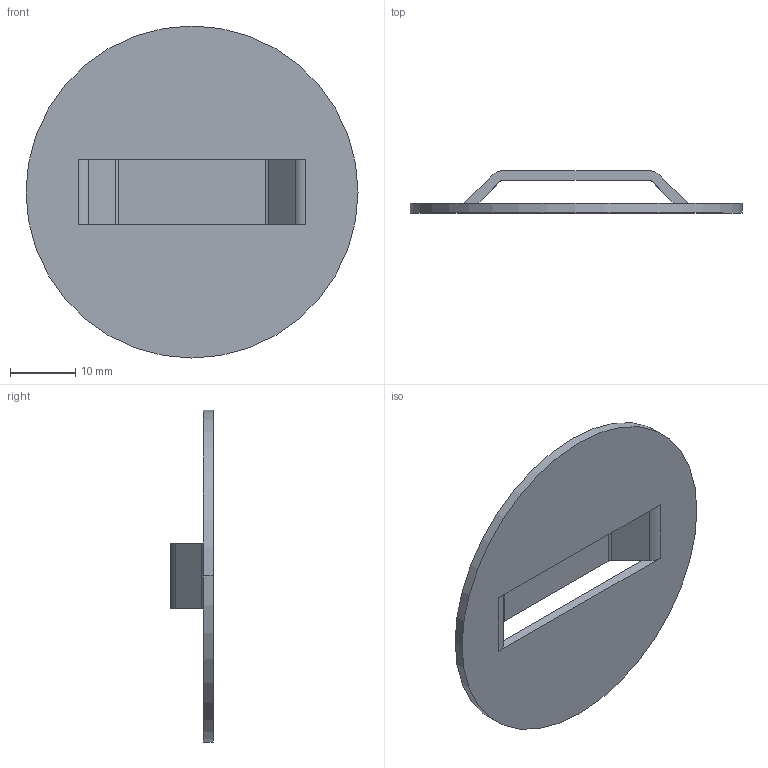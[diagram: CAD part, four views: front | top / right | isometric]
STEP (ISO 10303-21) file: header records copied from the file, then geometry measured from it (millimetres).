
FILE_DESCRIPTION (( 'STEP AP203' ), '1' );
FILE_NAME ('1242633-10 FU BRIDGELANCE .394W X 1.348L X .197H X .059 THK.STEP', '2024-11-18T17:18:44', ( '' ), ( '' ), 'SwSTEP 2.0', 'SolidWorks 2024', '' );
FILE_SCHEMA (( 'CONFIG_CONTROL_DESIGN' ));
Length unit declared in the file: inch
Products named in the file (1): 1242633-10 FU BRIDGELANCE .394W X 1.348L X .197H X .059 THK
Bounding box: 50.8 x 6.5 x 50.8 mm (x, y, z)
Volume: 3095.7 mm3; surface area: 4571.9 mm2
Topology: 1 solids, 1 shells, 22 faces, 62 edges, 40 vertices
Faces by surface type: plane 12, cylinder 10
Entity records: 801 total; most frequent: DIRECTION 128, CARTESIAN_POINT 125, ORIENTED_EDGE 124, EDGE_CURVE 62, AXIS2_PLACEMENT_3D 43, LINE 42, VECTOR 42, VERTEX_POINT 40
